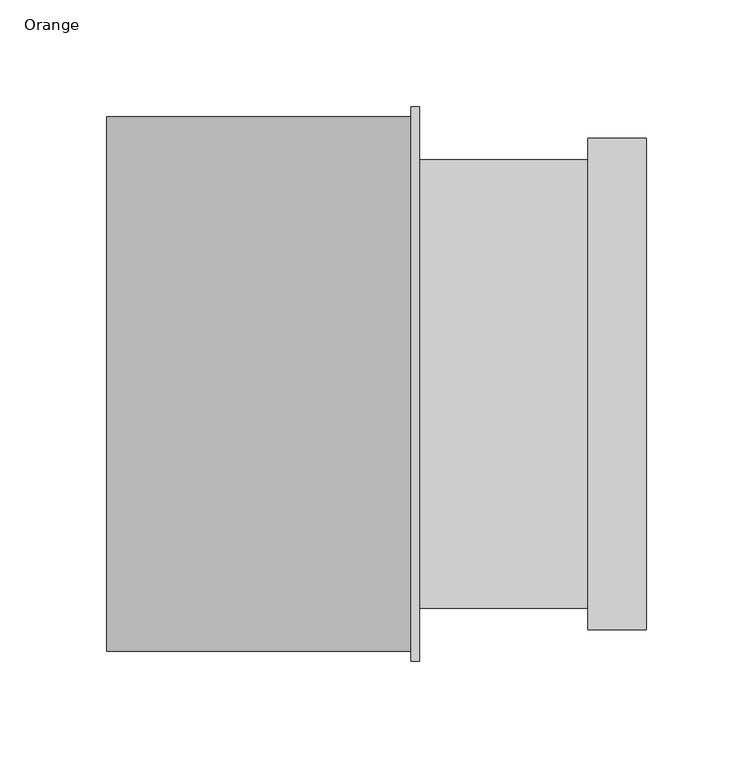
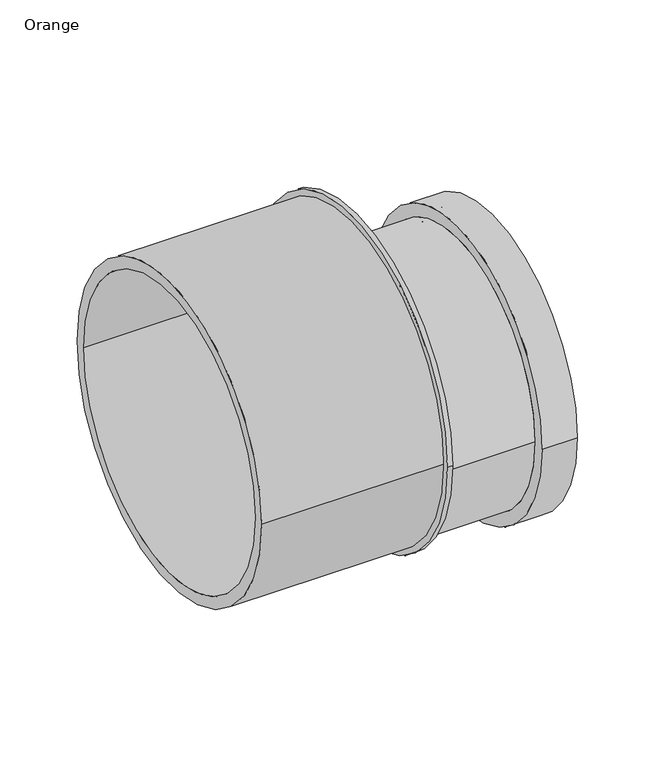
"""IFC4 building model written with IfcOpenShell, lengths in millimetres: pipe fitting geometry, AWADUKT PP Transition : Orange."""

import ifcopenshell
import ifcopenshell.guid

model = None  # the IFC model being written
_history = None  # IfcOwnerHistory: only IFC2X3 demands one
_inside = {}  # id of a spatial element -> (the spatial element, [elements in it])
_under = {}  # id of a project, library or spatial element -> (it, [spatial elements below it])
_declared = {}  # id of a project -> (the project, [libraries it declares])
_typed = {}  # id of a type object -> (the type object, [elements of that type])
_made_of = {}  # id of a material, layer set ... -> (it, [elements and type objects made of it])


def new_model(schema):
    """Start an empty IFC model of exactly this schema.

    Asked for "IFC4X3", IfcOpenShell would pick the latest addendum, in which some entities
    have other attributes; the version numbers below select the first issue.
    IFC2X3 requires an IfcOwnerHistory on every rooted entity: one is made here for all.
    """
    global model, _history
    if schema == "IFC4X3":
        model = ifcopenshell.file(schema_version=(4, 3, 0, 0))
    else:
        model = ifcopenshell.file(schema=schema)
    _inside.clear()
    _under.clear()
    _declared.clear()
    _typed.clear()
    _made_of.clear()
    _history = None
    if model.schema == "IFC2X3":
        org = make("IfcOrganization", Name="unknown")
        user = make(
            "IfcPersonAndOrganization",
            ThePerson=make("IfcPerson", FamilyName="unknown"),
            TheOrganization=org,
        )
        app = make(
            "IfcApplication",
            ApplicationDeveloper=org,
            Version="unknown",
            ApplicationFullName="unknown",
            ApplicationIdentifier="unknown",
        )
        _history = make(
            "IfcOwnerHistory",
            OwningUser=user,
            OwningApplication=app,
            ChangeAction="ADDED",
            CreationDate=0,
        )
    return model


def make(cls, **values):
    """One entity of the class cls with the attributes given. An attribute that is None is left unset."""
    return model.create_entity(
        cls, **{name: value for name, value in values.items() if value is not None}
    )


def rooted(cls, **values):
    """An entity with a GlobalId (a new one), such as an element, a storey or a relation."""
    return make(cls, GlobalId=ifcopenshell.guid.new(), OwnerHistory=_history, **values)


def si_unit(unit_type, name, prefix=None):
    """IfcSIUnit, for example si_unit("LENGTHUNIT", "METRE", prefix="MILLI")."""
    return make("IfcSIUnit", UnitType=unit_type, Prefix=prefix, Name=name)


def assignment(units):
    """IfcUnitAssignment: the units of a project."""
    return None if units is None else make("IfcUnitAssignment", Units=units)


def point(xyz):
    """IfcCartesianPoint."""
    return None if xyz is None else make("IfcCartesianPoint", Coordinates=xyz)


def direction(xyz):
    """IfcDirection."""
    return None if xyz is None else make("IfcDirection", DirectionRatios=xyz)


def frame(location, z_axis=None, x_axis=None):
    """IfcAxis2Placement3D, a coordinate frame: its origin and axes. An axis left out is left unset."""
    return make(
        "IfcAxis2Placement3D",
        Location=point(location),
        Axis=direction(z_axis),
        RefDirection=direction(x_axis),
    )


def frame_2d(location, x_axis=None):
    """IfcAxis2Placement2D, a coordinate frame in the plane: its origin and x axis."""
    return make(
        "IfcAxis2Placement2D", Location=point(location), RefDirection=direction(x_axis)
    )


def origin():
    """The frame at (0, 0, 0) with its axes left unset."""
    return frame((0.0, 0.0, 0.0))


def origin_2d():
    """The frame at (0, 0) in the plane with its x axis left unset."""
    return frame_2d((0.0, 0.0))


def place(relative_to, where):
    """IfcLocalPlacement: puts the frame where relative to a parent placement (None: the world)."""
    return make(
        "IfcLocalPlacement", PlacementRelTo=relative_to, RelativePlacement=where
    )


def context(
    kind, dimensions, precision=None, world=None, true_north=None, identifier=None
):
    """IfcGeometricRepresentationContext, for example the 3D "Model" context."""
    return make(
        "IfcGeometricRepresentationContext",
        ContextIdentifier=identifier,
        ContextType=kind,
        CoordinateSpaceDimension=dimensions,
        Precision=precision,
        WorldCoordinateSystem=world,
        TrueNorth=true_north,
    )


def project(units=None, contexts=None):
    """IfcProject with its units and contexts."""
    return rooted(
        "IfcProject",
        Name="project",
        RepresentationContexts=contexts,
        UnitsInContext=assignment(units),
    )


def spatial(cls, under=None, at=None, **own):
    """A site, building, storey or space (cls), placed at a placement, below another one or the project."""
    s = rooted(cls, ObjectPlacement=at, **own)
    if under is not None:
        _under.setdefault(under.id(), (under, []))[1].append(s)
    return s


def polyline(points):
    """IfcPolyline through the points."""
    return make("IfcPolyline", Points=[point(p) for p in points])


def circle_curve(where, radius):
    """IfcCircle in the frame where."""
    return make("IfcCircle", Position=where, Radius=radius)


def trimmed(basis, trim1, trim2, sense, master):
    """IfcTrimmedCurve: the piece of a basis curve between two trims."""
    return make(
        "IfcTrimmedCurve",
        BasisCurve=basis,
        Trim1=trim1,
        Trim2=trim2,
        SenseAgreement=sense,
        MasterRepresentation=master,
    )


def segment(curve, same_sense, transition):
    """IfcCompositeCurveSegment."""
    return make(
        "IfcCompositeCurveSegment",
        Transition=transition,
        SameSense=same_sense,
        ParentCurve=curve,
    )


def composite_curve(segments, self_intersect=None):
    """IfcCompositeCurve: segments joined end to end."""
    return make("IfcCompositeCurve", Segments=segments, SelfIntersect=self_intersect)


def outline(outer, holes=None, kind="AREA"):
    """IfcArbitraryClosedProfileDef: a profile drawn as a closed curve; with holes, ...WithVoids."""
    if holes is None:
        return make("IfcArbitraryClosedProfileDef", ProfileType=kind, OuterCurve=outer)
    return make(
        "IfcArbitraryProfileDefWithVoids",
        ProfileType=kind,
        OuterCurve=outer,
        InnerCurves=holes,
    )


def extrude(swept, where, along, depth):
    """IfcExtrudedAreaSolid: the profile swept, set in the frame where, extruded along a direction by depth."""
    return make(
        "IfcExtrudedAreaSolid",
        SweptArea=swept,
        Position=where,
        ExtrudedDirection=direction(along),
        Depth=depth,
    )


def shape(context_of_items, identifier, shape_type, items):
    """IfcShapeRepresentation: the items that make up one representation, for example the "Body"."""
    return make(
        "IfcShapeRepresentation",
        ContextOfItems=context_of_items,
        RepresentationIdentifier=identifier,
        RepresentationType=shape_type,
        Items=items,
    )


def source(mapping_origin, context_of_items, identifier, shape_type, items):
    """IfcRepresentationMap: a shape defined once, which mapped items show again and again."""
    return make(
        "IfcRepresentationMap",
        MappingOrigin=mapping_origin,
        MappedRepresentation=shape(context_of_items, identifier, shape_type, items),
    )


def transform(
    local_origin,
    x_axis=None,
    y_axis=None,
    z_axis=None,
    scale=None,
    scale2=None,
    scale3=None,
    uniform=True,
):
    """IfcCartesianTransformationOperator3D, or its non-uniform kind. x_axis, y_axis, z_axis: its Axis1, 2, 3."""
    if uniform:
        return make(
            "IfcCartesianTransformationOperator3D",
            Axis1=direction(x_axis),
            Axis2=direction(y_axis),
            LocalOrigin=point(local_origin),
            Scale=scale,
            Axis3=direction(z_axis),
        )
    return make(
        "IfcCartesianTransformationOperator3DnonUniform",
        Axis1=direction(x_axis),
        Axis2=direction(y_axis),
        LocalOrigin=point(local_origin),
        Scale=scale,
        Axis3=direction(z_axis),
        Scale2=scale2,
        Scale3=scale3,
    )


def mapped(mapping_source, mapping_target):
    """IfcMappedItem: shows the shape of a source again, moved by a transform."""
    return make(
        "IfcMappedItem", MappingSource=mapping_source, MappingTarget=mapping_target
    )


def made_of(thing, what):
    """Note that an element or type object is made of a material, layer set ...; save() writes the relation."""
    if what is not None:
        _made_of.setdefault(what.id(), (what, []))[1].append(thing)
    return thing


def element(
    cls,
    number,
    at=None,
    inside=None,
    cuts=None,
    type_object=None,
    material=None,
    context=None,
    identifier="Body",
    shape_type=None,
    held_by="IfcProductDefinitionShape",
    body=None,
    shapes=None,
    **own,
):
    """One element of the class cls, such as IfcWall. Its Tag is "e" and its number.

    at: its placement. inside: the storey or other place that contains it. cuts: it is an
    opening in that element (IfcRelVoidsElement). A single representation is given by context,
    identifier, shape_type and body (its items); several are given by shapes. held_by: the class
    of the entity that holds the representations. save() writes the other relations.
    """
    e = rooted(cls, Tag="e%d" % number, ObjectPlacement=at, **own)
    if body is not None:
        shapes = [shape(context, identifier, shape_type, body)]
    if shapes is not None:
        e.Representation = make(held_by, Representations=shapes)
    if inside is not None:
        _inside.setdefault(inside.id(), (inside, []))[1].append(e)
    if cuts is not None:
        rooted(
            "IfcRelVoidsElement", RelatingBuildingElement=cuts, RelatedOpeningElement=e
        )
    if type_object is not None:
        _typed.setdefault(type_object.id(), (type_object, []))[1].append(e)
    return made_of(e, material)


def aggregate(whole, parts):
    """IfcRelAggregates: a whole, such as a stair, and the parts it consists of."""
    return rooted("IfcRelAggregates", RelatingObject=whole, RelatedObjects=parts)


def save(model, path):
    """Write the relations noted so far, then the file.

    IfcRelAggregates (storeys below a building ...), IfcRelContainedInSpatialStructure (elements
    in a storey), IfcRelDefinesByType, IfcRelAssociatesMaterial and IfcRelDeclares: one each for
    every whole, place, type object, material and project.
    """
    for whole, parts in _under.values():
        aggregate(whole, parts)
    for where, things in _inside.values():
        rooted(
            "IfcRelContainedInSpatialStructure",
            RelatedElements=things,
            RelatingStructure=where,
        )
    for kind, things in _typed.values():
        rooted("IfcRelDefinesByType", RelatedObjects=things, RelatingType=kind)
    for what, things in _made_of.values():
        rooted("IfcRelAssociatesMaterial", RelatedObjects=things, RelatingMaterial=what)
    for by, libraries in _declared.values():
        rooted("IfcRelDeclares", RelatingContext=by, RelatedDefinitions=libraries)
    model.write(path)


def plane_surface(at):
    """IfcPlane: the flat surface through the origin of the frame at, square to its z axis."""
    return make("IfcPlane", Position=at)


def cylinder_surface(at, radius):
    """IfcCylindricalSurface: all points at the distance radius from the z axis of the frame at."""
    return make("IfcCylindricalSurface", Position=at, Radius=radius)


def revolved_surface(curve, axis_point, axis_direction):
    """IfcSurfaceOfRevolution: the curve turned about the line through axis_point along axis_direction."""
    return make(
        "IfcSurfaceOfRevolution",
        SweptCurve=make("IfcArbitraryOpenProfileDef", ProfileType="CURVE", Curve=curve),
        AxisPosition=make("IfcAxis1Placement", Location=point(axis_point), Axis=direction(axis_direction)),
    )


def advanced_brep(points, edges, surfaces, faces):
    """IfcAdvancedBrep: a solid bounded by faces that lie on surfaces and meet in shared edges.

    An edge is (start, end): straight between two places in points (the first is 0);
    or (start, end, curve); or (start, end, curve, False) where it runs against its curve.
    A face is (place in surfaces, loops), or (place, loops, False) where it looks against
    its surface's normal. A loop lists edges by number (the first is 1), with a minus sign
    where the edge is run from its end to its start. The first loop is the outer one.
    """
    corners = [point(p) for p in points]
    vertices = [make("IfcVertexPoint", VertexGeometry=c) for c in corners]
    made = []
    for start, end, *more in edges:
        made.append(
            make(
                "IfcEdgeCurve",
                EdgeStart=vertices[start],
                EdgeEnd=vertices[end],
                EdgeGeometry=more[0] if more else make("IfcPolyline", Points=[corners[start], corners[end]]),
                SameSense=more[1] if len(more) > 1 else True,
            )
        )
    hull = []
    for where, loops, *sense in faces:
        bounds = []
        for j, loop in enumerate(loops):
            ring = [make("IfcOrientedEdge", EdgeElement=made[abs(k) - 1], Orientation=k > 0) for k in loop]
            bounds.append(
                make(
                    "IfcFaceOuterBound" if j == 0 else "IfcFaceBound",
                    Bound=make("IfcEdgeLoop", EdgeList=ring),
                    Orientation=True,
                )
            )
        hull.append(make("IfcAdvancedFace", Bounds=bounds, FaceSurface=surfaces[where], SameSense=sense[0] if sense else True))
    return make("IfcAdvancedBrep", Outer=make("IfcClosedShell", CfsFaces=hull))


def orange_5b8476dd(model_context):
    return source(origin(), model_context, "Body", "SolidModel", [
        extrude(outline(composite_curve([segment(trimmed(circle_curve(origin_2d(), 130.15), [point((-130.15, 0.0))], [point((130.15, 0.0))], False, "CARTESIAN"), True, "CONTINUOUS"), segment(trimmed(circle_curve(origin_2d(), 130.15), [point((130.15, 0.0))], [point((-130.15, 0.0))], False, "CARTESIAN"), True, "CONTINUOUS")], self_intersect=False), holes=[composite_curve([segment(trimmed(circle_curve(frame_2d((0.0, -23.0)), 93.9), [point((-93.9, -23.0))], [point((93.9, -23.0))], True, "CARTESIAN"), True, "CONTINUOUS"), segment(trimmed(circle_curve(frame_2d((0.0, -23.0)), 93.9), [point((93.9, -23.0))], [point((-93.9, -23.0))], True, "CARTESIAN"), True, "CONTINUOUS")], self_intersect=False)]), frame((149.0, 0.0, 0.0), z_axis=(1.0, 0.0, 0.0), x_axis=(0.0, 1.0, 0.0)), (0.0, 0.0, 1.0), 4.0),
        advanced_brep(
        [(232.0, -105.2, -23.0), (232.0, 105.2, -23.0), (153.0, 105.2, -23.0), (153.0, -105.2, -23.0), (259.5, -115.2, -23.0), (259.5, 115.2, -23.0), (232.0, 115.2, -23.0), (232.0, -115.2, -23.0), (254.3, -100.0, -23.0), (254.3, 100.0, -23.0), (259.5, 100.0, -23.0), (259.5, -100.0, -23.0), (237.2, -105.2, -23.0), (237.2, 105.2, -23.0), (254.3, 105.2, -23.0), (254.3, -105.2, -23.0), (153.0, -100.0, -23.0), (153.0, 100.0, -23.0), (237.2, 100.0, -23.0), (237.2, -100.0, -23.0)],
        [
            (0, 1, circle_curve(frame((232.0, 0.0, -23.0), z_axis=(-1.0, 0.0, 0.0), x_axis=(0.0, 1.0, 0.0)), 105.2)),
            (1, 2),
            (2, 3, circle_curve(frame((153.0, 0.0, -23.0), z_axis=(1.0, 0.0, 0.0), x_axis=(0.0, 1.0, 0.0)), 105.2)),
            (3, 0),
            (4, 5, circle_curve(frame((259.5, 0.0, -23.0), z_axis=(-1.0, 0.0, 0.0), x_axis=(0.0, 1.0, 0.0)), 115.2)),
            (5, 6),
            (6, 7, circle_curve(frame((232.0, 0.0, -23.0), z_axis=(1.0, 0.0, 0.0), x_axis=(0.0, 1.0, 0.0)), 115.2)),
            (7, 4),
            (8, 9, circle_curve(frame((254.3, 0.0, -23.0), z_axis=(-1.0, 0.0, 0.0), x_axis=(0.0, 1.0, 0.0)), 100.0)),
            (9, 10),
            (10, 11, circle_curve(frame((259.5, 0.0, -23.0), z_axis=(1.0, 0.0, 0.0), x_axis=(0.0, 1.0, 0.0)), 100.0)),
            (11, 8),
            (12, 13, circle_curve(frame((237.2, 0.0, -23.0), z_axis=(-1.0, 0.0, 0.0), x_axis=(0.0, 1.0, 0.0)), 105.2)),
            (13, 14),
            (14, 15, circle_curve(frame((254.3, 0.0, -23.0), z_axis=(1.0, 0.0, 0.0), x_axis=(0.0, 1.0, 0.0)), 105.2)),
            (15, 12),
            (16, 17, circle_curve(frame((153.0, 0.0, -23.0), z_axis=(-1.0, 0.0, 0.0), x_axis=(0.0, 1.0, 0.0)), 100.0)),
            (17, 18),
            (18, 19, circle_curve(frame((237.2, 0.0, -23.0), z_axis=(1.0, 0.0, 0.0), x_axis=(0.0, 1.0, 0.0)), 100.0)),
            (19, 16),
            (2, 3, circle_curve(frame((153.0, 0.0, -23.0), z_axis=(-1.0, 0.0, 0.0), x_axis=(0.0, -1.0, 0.0)), 105.2)),
            (16, 17, circle_curve(frame((153.0, 0.0, -23.0), z_axis=(1.0, 0.0, 0.0), x_axis=(0.0, -1.0, 0.0)), 100.0)),
            (1, 0, circle_curve(frame((232.0, 0.0, -23.0), z_axis=(-1.0, 0.0, 0.0), x_axis=(0.0, -1.0, 0.0)), 105.2)),
            (6, 7, circle_curve(frame((232.0, 0.0, -23.0), z_axis=(-1.0, 0.0, 0.0), x_axis=(0.0, -1.0, 0.0)), 115.2)),
            (5, 4, circle_curve(frame((259.5, 0.0, -23.0), z_axis=(-1.0, 0.0, 0.0), x_axis=(0.0, -1.0, 0.0)), 115.2)),
            (10, 11, circle_curve(frame((259.5, 0.0, -23.0), z_axis=(-1.0, 0.0, 0.0), x_axis=(0.0, -1.0, 0.0)), 100.0)),
            (9, 8, circle_curve(frame((254.3, 0.0, -23.0), z_axis=(-1.0, 0.0, 0.0), x_axis=(0.0, -1.0, 0.0)), 100.0)),
            (14, 15, circle_curve(frame((254.3, 0.0, -23.0), z_axis=(-1.0, 0.0, 0.0), x_axis=(0.0, -1.0, 0.0)), 105.2)),
            (13, 12, circle_curve(frame((237.2, 0.0, -23.0), z_axis=(-1.0, 0.0, 0.0), x_axis=(0.0, -1.0, 0.0)), 105.2)),
            (18, 19, circle_curve(frame((237.2, 0.0, -23.0), z_axis=(-1.0, 0.0, 0.0), x_axis=(0.0, -1.0, 0.0)), 100.0)),
        ],
        [
            cylinder_surface(frame((153.0, 0.0, -23.0), z_axis=(1.0, 0.0, 0.0), x_axis=(0.0, 1.0, 0.0)), 105.2),
            cylinder_surface(frame((153.0, 0.0, -23.0), z_axis=(1.0, 0.0, 0.0), x_axis=(0.0, 1.0, 0.0)), 115.2),
            revolved_surface(polyline([(259.5, 100.0, -23.0), (254.3, 100.0, -23.0)]), (153.0, 0.0, -23.0), (1.0, 0.0, 0.0)),
            revolved_surface(polyline([(254.3, 105.2, -23.0), (237.2, 105.2, -23.0)]), (153.0, 0.0, -23.0), (1.0, 0.0, 0.0)),
            revolved_surface(polyline([(237.2, 100.0, -23.0), (153.0, 100.0, -23.0)]), (153.0, 0.0, -23.0), (1.0, 0.0, 0.0)),
            plane_surface(frame((153.0, 0.0, -23.0), z_axis=(-1.0, 0.0, 0.0), x_axis=(0.0, -1.0, 0.0))),
            cylinder_surface(frame((153.0, 0.0, -23.0), z_axis=(1.0, 0.0, 0.0), x_axis=(0.0, -1.0, 0.0)), 105.2),
            plane_surface(frame((232.0, 0.0, -23.0), z_axis=(-1.0, 0.0, 0.0), x_axis=(0.0, -1.0, 0.0))),
            cylinder_surface(frame((153.0, 0.0, -23.0), z_axis=(1.0, 0.0, 0.0), x_axis=(0.0, -1.0, 0.0)), 115.2),
            plane_surface(frame((259.5, 0.0, -23.0), z_axis=(1.0, 0.0, 0.0), x_axis=(0.0, -1.0, 0.0))),
            revolved_surface(polyline([(259.5, -100.0, -23.0), (254.3, -100.0, -23.0)]), (153.0, 0.0, -23.0), (1.0, 0.0, 0.0)),
            plane_surface(frame((254.3, 0.0, -23.0), z_axis=(-1.0, 0.0, 0.0), x_axis=(0.0, -1.0, 0.0))),
            revolved_surface(polyline([(254.3, -105.2, -23.0), (237.2, -105.2, -23.0)]), (153.0, 0.0, -23.0), (1.0, 0.0, 0.0)),
            plane_surface(frame((237.2, 0.0, -23.0), z_axis=(1.0, 0.0, 0.0), x_axis=(0.0, -1.0, 0.0))),
            revolved_surface(polyline([(237.2, -100.0, -23.0), (153.0, -100.0, -23.0)]), (153.0, 0.0, -23.0), (1.0, 0.0, 0.0)),
        ],
        [
            (0, [[1, 2, 3, 4]]),
            (1, [[5, 6, 7, 8]]),
            (2, [[9, 10, 11, 12]]),
            (3, [[13, 14, 15, 16]]),
            (4, [[17, 18, 19, 20]]),
            (5, [[21, -3], [22, -17]]),
            (6, [[23, -4, -21, -2]]),
            (7, [[24, -7], [-23, -1]]),
            (8, [[25, -8, -24, -6]]),
            (9, [[-25, -5], [26, -11]]),
            (10, [[27, -12, -26, -10]]),
            (11, [[28, -15], [-27, -9]]),
            (12, [[29, -16, -28, -14]]),
            (13, [[-29, -13], [30, -19]]),
            (14, [[-22, -20, -30, -18]]),
        ],
    ),
        extrude(outline(composite_curve([segment(trimmed(circle_curve(origin_2d(), 125.5), [point((-125.5, 0.0))], [point((125.5, 0.0))], False, "CARTESIAN"), True, "CONTINUOUS"), segment(trimmed(circle_curve(origin_2d(), 125.5), [point((125.5, 0.0))], [point((-125.5, 0.0))], False, "CARTESIAN"), True, "CONTINUOUS")], self_intersect=False), holes=[composite_curve([segment(trimmed(circle_curve(origin_2d(), 116.4), [point((116.4, 0.0))], [point((-116.4, 0.0))], True, "CARTESIAN"), True, "CONTINUOUS"), segment(trimmed(circle_curve(origin_2d(), 116.4), [point((-116.4, 0.0))], [point((116.4, 0.0))], True, "CARTESIAN"), True, "CONTINUOUS")], self_intersect=False)]), frame((6.0, 0.0, 0.0), z_axis=(1.0, 0.0, 0.0), x_axis=(0.0, 1.0, 0.0)), (0.0, 0.0, 1.0), 143.0),
    ])


if __name__ == "__main__":
    model = new_model("IFC4")
    model_context = context("Model", 3, world=origin())
    ifc_project = project(units=[si_unit("LENGTHUNIT", "METRE", prefix="MILLI")], contexts=[model_context])
    site = spatial("IfcSite", under=ifc_project)
    building = spatial("IfcBuilding", under=site)
    placement = place(None, origin())
    orange_shape = orange_5b8476dd(model_context)
    element("IfcPipeFitting", 1, ObjectType="AWADUKT PP Transition : Orange", at=placement, inside=building, context=model_context, shape_type="MappedRepresentation", body=[
        mapped(orange_shape, transform((0.0, 0.0, 0.0), x_axis=(1.0, 0.0, 0.0), y_axis=(0.0, 1.0, 0.0), z_axis=(0.0, 0.0, 1.0))),
    ])
    save(model, "model.ifc")
